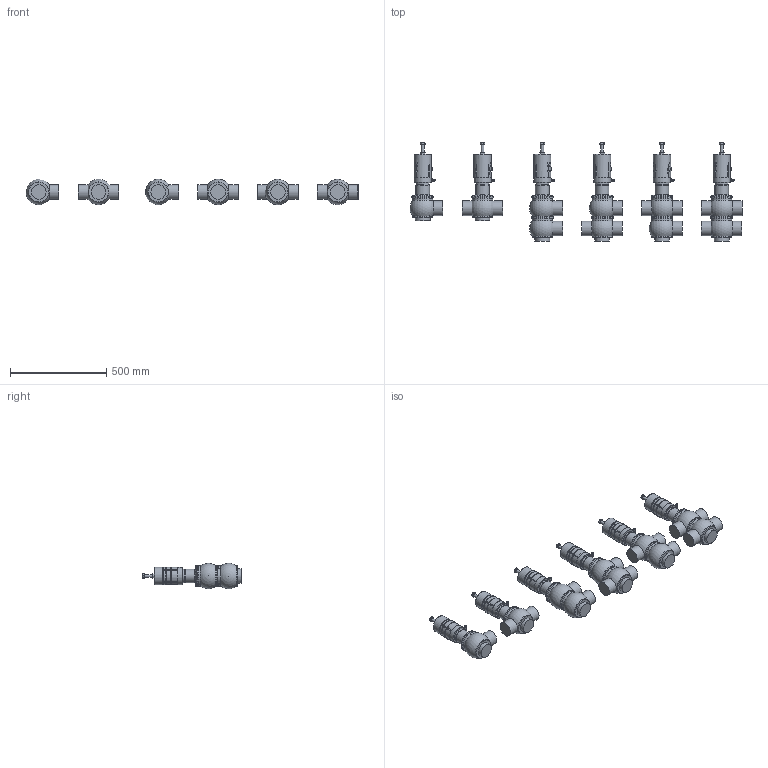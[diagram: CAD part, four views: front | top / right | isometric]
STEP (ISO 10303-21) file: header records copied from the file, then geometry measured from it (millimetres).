
FILE_DESCRIPTION((''),'2;1');
FILE_NAME('\\BV-SRV1\Ufficio tecnico\cad3d\PNEUMATICA\Ing1-1\pne bbzp e derivate\BBZS5\BBZS5-DN761-CIL83-SAL.iam.step','2009-10-19T10:18:23',(''),(''),'Autodesk Inventor 2010','Autodesk Inventor 2010','');
FILE_SCHEMA(('AUTOMOTIVE_DESIGN { 1 0 10303 214 1 1 1 1 }'));
Length unit declared in the file: millimetre
Products named in the file (7): BBZS5-DN761-CIL83-SAL; Assemblaggio-DN080; COR-INF-L-SAL-DN76; COR-INF-T-SAL-DN76; COR-SUP-L-SAL-DN76; COR-SUP-T-SAL-DN76; cil 83  tarabile
Assembly tree (22 placements, depth 2):
  BBZS5-DN761-CIL83-SAL
    Assemblaggio-DN080  x6
    COR-INF-L-SAL-DN76  x3
    COR-INF-T-SAL-DN76  x3
    COR-SUP-L-SAL-DN76  x2
    COR-SUP-T-SAL-DN76  x2
    cil 83  tarabile  x6
Bounding box: 1721 x 509.8 x 132 mm (x, y, z)
Volume: 23033088.5 mm3; surface area: 1446493.3 mm2
Topology: 22 solids, 52 shells, 1332 faces, 3098 edges, 1861 vertices
Faces by surface type: plane 491, cylinder 349, cone 266, bspline 96, sphere 82, torus 48
Full cylindrical faces by diameter (mm): 4.9 x6, 6 x12, 7 x6, 8.3 x6, 10 x6, 11 x6, 11.5 x6, 14 x18, 19.37 x6, 69 x6, 71 x6, 76.1 x21, 84.813 x18, 86 x12, 86.1 x6, 88.5 x6, 89.5 x6, 105 x26, 113 x20
Entity records: 7462 total; most frequent: CARTESIAN_POINT 1992, DIRECTION 1084, ORIENTED_EDGE 908, AXIS2_PLACEMENT_3D 464, EDGE_CURVE 454, EDGE_LOOP 359, VERTEX_POINT 317, FACE_OUTER_BOUND 251
